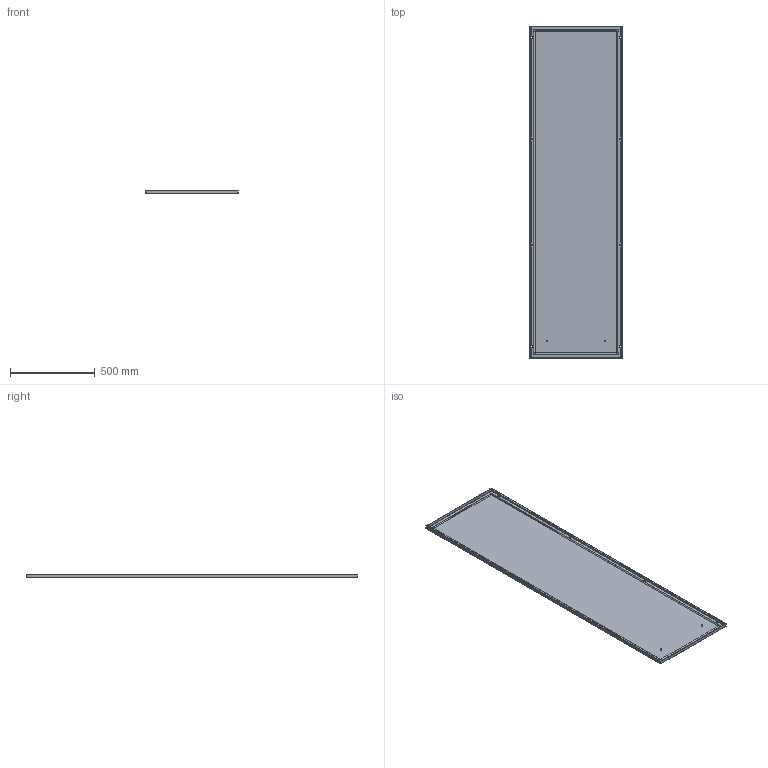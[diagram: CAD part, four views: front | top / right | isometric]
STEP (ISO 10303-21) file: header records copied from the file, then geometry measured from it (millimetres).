
FILE_DESCRIPTION(('CAx-IF Rec.Pracs.---Model Styling and Organization---1.2---2011-12-15','CAx-IF Rec.Pracs.---Geometric and Assembly Validation Properties---4.1---2014-06-16','CAx-IF Rec.Pracs.---PMI Polyline Presentation---2.0---2013-05-24'),'2;1');
FILE_NAME('R5LE2062.stp','2021-05-06T02:22:52+03:00',(''),(''),'STEP Interface 4.4 by CT CoreTechnologie','3D_Evolution4.4 by CT CoreTechnologie','');
FILE_SCHEMA(('AUTOMOTIVE_DESIGN { 1 0 10303 214 1 1 1 1 }'));
Length unit declared in the file: millimetre
Products named in the file (4): R5LE2062; Ì6õ12-A5100231_straight; RB.0053.00.01.0_-13; PF 5x10 LE_-13
Assembly tree (4 placements, depth 2):
  R5LE2062
    Ì6õ12-A5100231_straight  x2
    RB.0053.00.01.0_-13
    PF 5x10 LE_-13
Bounding box: 546 x 1961 x 21.5 mm (x, y, z)
Surface area: 2527042.4 mm2 (no closed solid volume)
Topology: 0 solids, 4 shells, 113 faces, 303 edges, 193 vertices
Faces by surface type: plane 63, bspline 28, cylinder 22
Entity records: 4176 total; most frequent: CARTESIAN_POINT 1287, ORIENTED_EDGE 586, DIRECTION 515, EDGE_CURVE 293, VECTOR 213, LINE 213, VERTEX_POINT 189, AXIS2_PLACEMENT_3D 151
